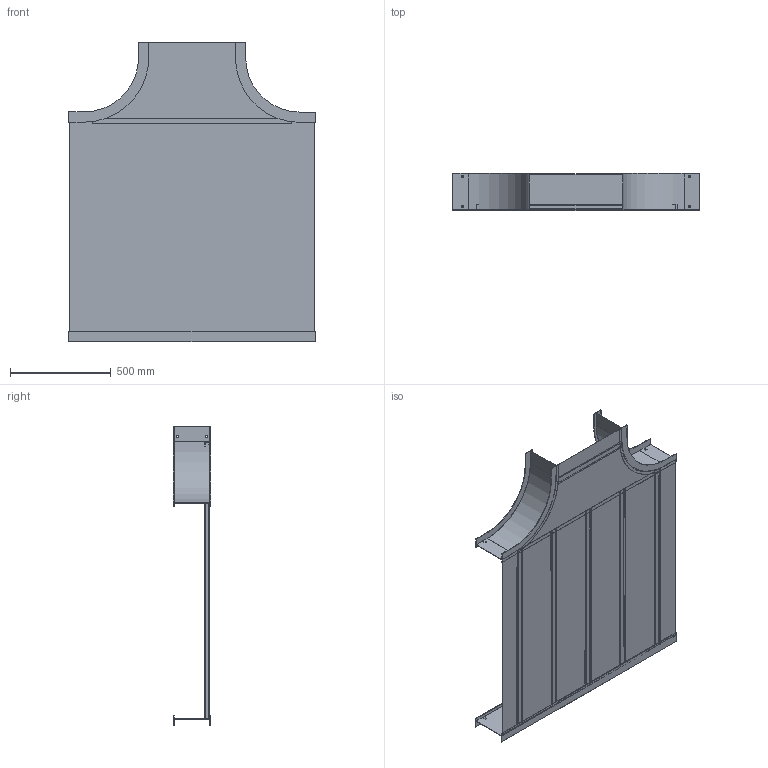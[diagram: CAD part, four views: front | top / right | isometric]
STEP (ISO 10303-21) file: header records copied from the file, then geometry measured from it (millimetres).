
FILE_DESCRIPTION((''),'2;1');
FILE_NAME('AHF74218SRT12_ASM','2010-02-09T',('erouzier'),(''),'PRO/ENGINEER BY PARAMETRIC TECHNOLOGY CORPORATION, 2008510','PRO/ENGINEER BY PARAMETRIC TECHNOLOGY CORPORATION, 2008510','');
FILE_SCHEMA(('CONFIG_CONTROL_DESIGN'));
Length unit declared in the file: inch
Products named in the file (11): CDS001813-7-90-12-I; CDS013848-7-48; CDS000495_GEN_AF7; CDS002159L42_AF8; CDS002159L42_AF9; CDS002159L42_AF10; CDS002159L42_AF11; CDS002159L42_AF12; CDS002159L18_AF3; CDS014192-42-12-18; AHF74218SRT12_ASM
Assembly tree (11 placements, depth 2):
  AHF74218SRT12_ASM
    CDS001813-7-90-12-I  x2
    CDS013848-7-48
    CDS000495_GEN_AF7
    CDS002159L42_AF8
    CDS002159L42_AF9
    CDS002159L42_AF10
    CDS002159L42_AF11
    CDS002159L42_AF12
    CDS002159L18_AF3
    CDS014192-42-12-18
Bounding box: 1224.79 x 183.9 x 1486.92 mm (x, y, z)
Volume: 4320093.6 mm3; surface area: 5919075.7 mm2
Topology: 11 solids, 11 shells, 316 faces, 882 edges, 588 vertices
Faces by surface type: plane 236, cylinder 80
Entity records: 9048 total; most frequent: CARTESIAN_POINT 1566, ORIENTED_EDGE 1524, DIRECTION 1502, EDGE_CURVE 762, VECTOR 614, LINE 614, VERTEX_POINT 508, AXIS2_PLACEMENT_3D 444
